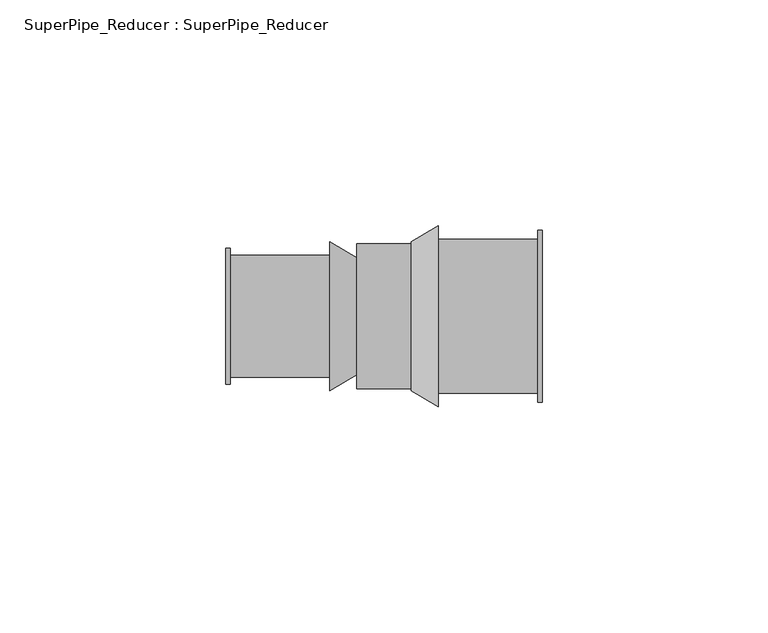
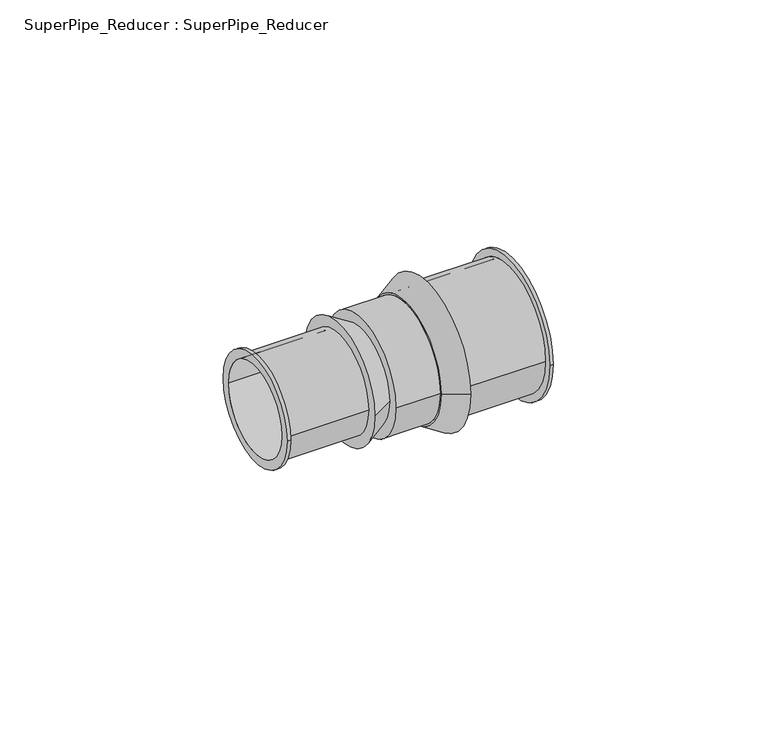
"""IFC4 building model written with IfcOpenShell, lengths in millimetres: pipe fitting geometry, SuperPipe_Reducer : SuperPipe_Reducer."""

import ifcopenshell
import ifcopenshell.guid

model = None  # the IFC model being written
_history = None  # IfcOwnerHistory: only IFC2X3 demands one
_inside = {}  # id of a spatial element -> (the spatial element, [elements in it])
_under = {}  # id of a project, library or spatial element -> (it, [spatial elements below it])
_declared = {}  # id of a project -> (the project, [libraries it declares])
_typed = {}  # id of a type object -> (the type object, [elements of that type])
_made_of = {}  # id of a material, layer set ... -> (it, [elements and type objects made of it])


def new_model(schema):
    """Start an empty IFC model of exactly this schema.

    Asked for "IFC4X3", IfcOpenShell would pick the latest addendum, in which some entities
    have other attributes; the version numbers below select the first issue.
    IFC2X3 requires an IfcOwnerHistory on every rooted entity: one is made here for all.
    """
    global model, _history
    if schema == "IFC4X3":
        model = ifcopenshell.file(schema_version=(4, 3, 0, 0))
    else:
        model = ifcopenshell.file(schema=schema)
    _inside.clear()
    _under.clear()
    _declared.clear()
    _typed.clear()
    _made_of.clear()
    _history = None
    if model.schema == "IFC2X3":
        org = make("IfcOrganization", Name="unknown")
        user = make(
            "IfcPersonAndOrganization",
            ThePerson=make("IfcPerson", FamilyName="unknown"),
            TheOrganization=org,
        )
        app = make(
            "IfcApplication",
            ApplicationDeveloper=org,
            Version="unknown",
            ApplicationFullName="unknown",
            ApplicationIdentifier="unknown",
        )
        _history = make(
            "IfcOwnerHistory",
            OwningUser=user,
            OwningApplication=app,
            ChangeAction="ADDED",
            CreationDate=0,
        )
    return model


def make(cls, **values):
    """One entity of the class cls with the attributes given. An attribute that is None is left unset."""
    return model.create_entity(
        cls, **{name: value for name, value in values.items() if value is not None}
    )


def rooted(cls, **values):
    """An entity with a GlobalId (a new one), such as an element, a storey or a relation."""
    return make(cls, GlobalId=ifcopenshell.guid.new(), OwnerHistory=_history, **values)


def si_unit(unit_type, name, prefix=None):
    """IfcSIUnit, for example si_unit("LENGTHUNIT", "METRE", prefix="MILLI")."""
    return make("IfcSIUnit", UnitType=unit_type, Prefix=prefix, Name=name)


def assignment(units):
    """IfcUnitAssignment: the units of a project."""
    return None if units is None else make("IfcUnitAssignment", Units=units)


def point(xyz):
    """IfcCartesianPoint."""
    return None if xyz is None else make("IfcCartesianPoint", Coordinates=xyz)


def direction(xyz):
    """IfcDirection."""
    return None if xyz is None else make("IfcDirection", DirectionRatios=xyz)


def frame(location, z_axis=None, x_axis=None):
    """IfcAxis2Placement3D, a coordinate frame: its origin and axes. An axis left out is left unset."""
    return make(
        "IfcAxis2Placement3D",
        Location=point(location),
        Axis=direction(z_axis),
        RefDirection=direction(x_axis),
    )


def frame_2d(location, x_axis=None):
    """IfcAxis2Placement2D, a coordinate frame in the plane: its origin and x axis."""
    return make(
        "IfcAxis2Placement2D", Location=point(location), RefDirection=direction(x_axis)
    )


def origin():
    """The frame at (0, 0, 0) with its axes left unset."""
    return frame((0.0, 0.0, 0.0))


def origin_2d():
    """The frame at (0, 0) in the plane with its x axis left unset."""
    return frame_2d((0.0, 0.0))


def place(relative_to, where):
    """IfcLocalPlacement: puts the frame where relative to a parent placement (None: the world)."""
    return make(
        "IfcLocalPlacement", PlacementRelTo=relative_to, RelativePlacement=where
    )


def context(
    kind, dimensions, precision=None, world=None, true_north=None, identifier=None
):
    """IfcGeometricRepresentationContext, for example the 3D "Model" context."""
    return make(
        "IfcGeometricRepresentationContext",
        ContextIdentifier=identifier,
        ContextType=kind,
        CoordinateSpaceDimension=dimensions,
        Precision=precision,
        WorldCoordinateSystem=world,
        TrueNorth=true_north,
    )


def project(units=None, contexts=None):
    """IfcProject with its units and contexts."""
    return rooted(
        "IfcProject",
        Name="project",
        RepresentationContexts=contexts,
        UnitsInContext=assignment(units),
    )


def spatial(cls, under=None, at=None, **own):
    """A site, building, storey or space (cls), placed at a placement, below another one or the project."""
    s = rooted(cls, ObjectPlacement=at, **own)
    if under is not None:
        _under.setdefault(under.id(), (under, []))[1].append(s)
    return s


def polyline(points):
    """IfcPolyline through the points."""
    return make("IfcPolyline", Points=[point(p) for p in points])


def circle_curve(where, radius):
    """IfcCircle in the frame where."""
    return make("IfcCircle", Position=where, Radius=radius)


def trimmed(basis, trim1, trim2, sense, master):
    """IfcTrimmedCurve: the piece of a basis curve between two trims."""
    return make(
        "IfcTrimmedCurve",
        BasisCurve=basis,
        Trim1=trim1,
        Trim2=trim2,
        SenseAgreement=sense,
        MasterRepresentation=master,
    )


def segment(curve, same_sense, transition):
    """IfcCompositeCurveSegment."""
    return make(
        "IfcCompositeCurveSegment",
        Transition=transition,
        SameSense=same_sense,
        ParentCurve=curve,
    )


def composite_curve(segments, self_intersect=None):
    """IfcCompositeCurve: segments joined end to end."""
    return make("IfcCompositeCurve", Segments=segments, SelfIntersect=self_intersect)


def outline(outer, holes=None, kind="AREA"):
    """IfcArbitraryClosedProfileDef: a profile drawn as a closed curve; with holes, ...WithVoids."""
    if holes is None:
        return make("IfcArbitraryClosedProfileDef", ProfileType=kind, OuterCurve=outer)
    return make(
        "IfcArbitraryProfileDefWithVoids",
        ProfileType=kind,
        OuterCurve=outer,
        InnerCurves=holes,
    )


def extrude(swept, where, along, depth):
    """IfcExtrudedAreaSolid: the profile swept, set in the frame where, extruded along a direction by depth."""
    return make(
        "IfcExtrudedAreaSolid",
        SweptArea=swept,
        Position=where,
        ExtrudedDirection=direction(along),
        Depth=depth,
    )


def shape(context_of_items, identifier, shape_type, items):
    """IfcShapeRepresentation: the items that make up one representation, for example the "Body"."""
    return make(
        "IfcShapeRepresentation",
        ContextOfItems=context_of_items,
        RepresentationIdentifier=identifier,
        RepresentationType=shape_type,
        Items=items,
    )


def source(mapping_origin, context_of_items, identifier, shape_type, items):
    """IfcRepresentationMap: a shape defined once, which mapped items show again and again."""
    return make(
        "IfcRepresentationMap",
        MappingOrigin=mapping_origin,
        MappedRepresentation=shape(context_of_items, identifier, shape_type, items),
    )


def transform(
    local_origin,
    x_axis=None,
    y_axis=None,
    z_axis=None,
    scale=None,
    scale2=None,
    scale3=None,
    uniform=True,
):
    """IfcCartesianTransformationOperator3D, or its non-uniform kind. x_axis, y_axis, z_axis: its Axis1, 2, 3."""
    if uniform:
        return make(
            "IfcCartesianTransformationOperator3D",
            Axis1=direction(x_axis),
            Axis2=direction(y_axis),
            LocalOrigin=point(local_origin),
            Scale=scale,
            Axis3=direction(z_axis),
        )
    return make(
        "IfcCartesianTransformationOperator3DnonUniform",
        Axis1=direction(x_axis),
        Axis2=direction(y_axis),
        LocalOrigin=point(local_origin),
        Scale=scale,
        Axis3=direction(z_axis),
        Scale2=scale2,
        Scale3=scale3,
    )


def mapped(mapping_source, mapping_target):
    """IfcMappedItem: shows the shape of a source again, moved by a transform."""
    return make(
        "IfcMappedItem", MappingSource=mapping_source, MappingTarget=mapping_target
    )


def made_of(thing, what):
    """Note that an element or type object is made of a material, layer set ...; save() writes the relation."""
    if what is not None:
        _made_of.setdefault(what.id(), (what, []))[1].append(thing)
    return thing


def element(
    cls,
    number,
    at=None,
    inside=None,
    cuts=None,
    type_object=None,
    material=None,
    context=None,
    identifier="Body",
    shape_type=None,
    held_by="IfcProductDefinitionShape",
    body=None,
    shapes=None,
    **own,
):
    """One element of the class cls, such as IfcWall. Its Tag is "e" and its number.

    at: its placement. inside: the storey or other place that contains it. cuts: it is an
    opening in that element (IfcRelVoidsElement). A single representation is given by context,
    identifier, shape_type and body (its items); several are given by shapes. held_by: the class
    of the entity that holds the representations. save() writes the other relations.
    """
    e = rooted(cls, Tag="e%d" % number, ObjectPlacement=at, **own)
    if body is not None:
        shapes = [shape(context, identifier, shape_type, body)]
    if shapes is not None:
        e.Representation = make(held_by, Representations=shapes)
    if inside is not None:
        _inside.setdefault(inside.id(), (inside, []))[1].append(e)
    if cuts is not None:
        rooted(
            "IfcRelVoidsElement", RelatingBuildingElement=cuts, RelatedOpeningElement=e
        )
    if type_object is not None:
        _typed.setdefault(type_object.id(), (type_object, []))[1].append(e)
    return made_of(e, material)


def aggregate(whole, parts):
    """IfcRelAggregates: a whole, such as a stair, and the parts it consists of."""
    return rooted("IfcRelAggregates", RelatingObject=whole, RelatedObjects=parts)


def save(model, path):
    """Write the relations noted so far, then the file.

    IfcRelAggregates (storeys below a building ...), IfcRelContainedInSpatialStructure (elements
    in a storey), IfcRelDefinesByType, IfcRelAssociatesMaterial and IfcRelDeclares: one each for
    every whole, place, type object, material and project.
    """
    for whole, parts in _under.values():
        aggregate(whole, parts)
    for where, things in _inside.values():
        rooted(
            "IfcRelContainedInSpatialStructure",
            RelatedElements=things,
            RelatingStructure=where,
        )
    for kind, things in _typed.values():
        rooted("IfcRelDefinesByType", RelatedObjects=things, RelatingType=kind)
    for what, things in _made_of.values():
        rooted("IfcRelAssociatesMaterial", RelatedObjects=things, RelatingMaterial=what)
    for by, libraries in _declared.values():
        rooted("IfcRelDeclares", RelatingContext=by, RelatedDefinitions=libraries)
    model.write(path)


def plane_surface(at):
    """IfcPlane: the flat surface through the origin of the frame at, square to its z axis."""
    return make("IfcPlane", Position=at)


def cylinder_surface(at, radius):
    """IfcCylindricalSurface: all points at the distance radius from the z axis of the frame at."""
    return make("IfcCylindricalSurface", Position=at, Radius=radius)


def revolved_surface(curve, axis_point, axis_direction):
    """IfcSurfaceOfRevolution: the curve turned about the line through axis_point along axis_direction."""
    return make(
        "IfcSurfaceOfRevolution",
        SweptCurve=make("IfcArbitraryOpenProfileDef", ProfileType="CURVE", Curve=curve),
        AxisPosition=make("IfcAxis1Placement", Location=point(axis_point), Axis=direction(axis_direction)),
    )


def advanced_brep(points, edges, surfaces, faces):
    """IfcAdvancedBrep: a solid bounded by faces that lie on surfaces and meet in shared edges.

    An edge is (start, end): straight between two places in points (the first is 0);
    or (start, end, curve); or (start, end, curve, False) where it runs against its curve.
    A face is (place in surfaces, loops), or (place, loops, False) where it looks against
    its surface's normal. A loop lists edges by number (the first is 1), with a minus sign
    where the edge is run from its end to its start. The first loop is the outer one.
    """
    corners = [point(p) for p in points]
    vertices = [make("IfcVertexPoint", VertexGeometry=c) for c in corners]
    made = []
    for start, end, *more in edges:
        made.append(
            make(
                "IfcEdgeCurve",
                EdgeStart=vertices[start],
                EdgeEnd=vertices[end],
                EdgeGeometry=more[0] if more else make("IfcPolyline", Points=[corners[start], corners[end]]),
                SameSense=more[1] if len(more) > 1 else True,
            )
        )
    hull = []
    for where, loops, *sense in faces:
        bounds = []
        for j, loop in enumerate(loops):
            ring = [make("IfcOrientedEdge", EdgeElement=made[abs(k) - 1], Orientation=k > 0) for k in loop]
            bounds.append(
                make(
                    "IfcFaceOuterBound" if j == 0 else "IfcFaceBound",
                    Bound=make("IfcEdgeLoop", EdgeList=ring),
                    Orientation=True,
                )
            )
        hull.append(make("IfcAdvancedFace", Bounds=bounds, FaceSurface=surfaces[where], SameSense=sense[0] if sense else True))
    return make("IfcAdvancedBrep", Outer=make("IfcClosedShell", CfsFaces=hull))


def superpipe_reducer_superpipe_reducer_a04450db(model_context):
    return source(origin(), model_context, "Body", "SolidModel", [
        advanced_brep(
        [(-35.0, -15.0, 0.0), (-35.0, 15.0, 0.0), (-35.0, -12.5, 0.0), (-35.0, 12.5, 0.0), (-12.0, -13.5, 0.0), (-12.0, 13.5, 0.0), (-12.0, -12.5, 0.0), (-12.0, 12.5, 0.0), (-34.0, -12.5, 0.0), (-34.0, 12.5, 0.0), (-34.0, 13.5, 0.0), (-34.0, -13.5, 0.0), (-34.0, -15.0, 0.0), (-34.0, 15.0, 0.0)],
        [
            (0, 1, circle_curve(frame((-35.0, 0.0, 0.0), z_axis=(-1.0, 0.0, 0.0), x_axis=(0.0, 1.0, 0.0)), 15.0)),
            (1, 0, circle_curve(frame((-35.0, 0.0, 0.0), z_axis=(-1.0, 0.0, 0.0), x_axis=(0.0, 1.0, 0.0)), 15.0)),
            (2, 3, circle_curve(frame((-35.0, 0.0, 0.0), z_axis=(1.0, 0.0, 0.0), x_axis=(0.0, 1.0, 0.0)), 12.5)),
            (3, 2, circle_curve(frame((-35.0, 0.0, 0.0), z_axis=(1.0, 0.0, 0.0), x_axis=(0.0, 1.0, 0.0)), 12.5)),
            (4, 5, circle_curve(frame((-12.0, 0.0, 0.0), z_axis=(1.0, 0.0, 0.0), x_axis=(0.0, 1.0, 0.0)), 13.5)),
            (5, 4, circle_curve(frame((-12.0, 0.0, 0.0), z_axis=(1.0, 0.0, 0.0), x_axis=(0.0, 1.0, 0.0)), 13.5)),
            (6, 7, circle_curve(frame((-12.0, 0.0, 0.0), z_axis=(-1.0, 0.0, 0.0), x_axis=(0.0, 1.0, 0.0)), 12.5)),
            (7, 6, circle_curve(frame((-12.0, 0.0, 0.0), z_axis=(-1.0, 0.0, 0.0), x_axis=(0.0, 1.0, 0.0)), 12.5)),
            (2, 8),
            (8, 6),
            (7, 9),
            (9, 3),
            (5, 10),
            (10, 11, circle_curve(frame((-34.0, 0.0, 0.0), z_axis=(1.0, 0.0, 0.0), x_axis=(0.0, 1.0, 0.0)), 13.5)),
            (11, 4),
            (11, 10, circle_curve(frame((-34.0, 0.0, 0.0), z_axis=(1.0, 0.0, 0.0), x_axis=(0.0, 1.0, 0.0)), 13.5)),
            (12, 13, circle_curve(frame((-34.0, 0.0, 0.0), z_axis=(1.0, 0.0, 0.0), x_axis=(0.0, 1.0, 0.0)), 15.0)),
            (13, 12, circle_curve(frame((-34.0, 0.0, 0.0), z_axis=(1.0, 0.0, 0.0), x_axis=(0.0, 1.0, 0.0)), 15.0)),
            (1, 13),
            (12, 0),
        ],
        [
            plane_surface(frame((-35.0, 0.0, 0.0), z_axis=(-1.0, 0.0, 0.0), x_axis=(0.0, 0.0, 1.0))),
            plane_surface(frame((-12.0, 0.0, 0.0), z_axis=(1.0, 0.0, 0.0), x_axis=(0.0, 0.0, 1.0))),
            revolved_surface(polyline([(-12.0, 12.5, 0.0), (-35.0, 12.5, 0.0)]), (-35.0, 0.0, 0.0), (1.0, 0.0, 0.0)),
            cylinder_surface(frame((-35.0, 0.0, 0.0), z_axis=(-1.0, 0.0, 0.0), x_axis=(0.0, 1.0, 0.0)), 13.5),
            plane_surface(frame((-34.0, 0.0, 0.0), z_axis=(1.0, 0.0, 0.0), x_axis=(0.0, 0.0, 1.0))),
            cylinder_surface(frame((-35.0, 0.0, 0.0), z_axis=(-1.0, 0.0, 0.0), x_axis=(0.0, 1.0, 0.0)), 15.0),
        ],
        [
            (0, [[1, 2], [3, 4]]),
            (1, [[5, 6], [7, 8]]),
            (2, [[-3, 9, 10, -8, 11, 12]]),
            (2, [[-4, -12, -11, -7, -10, -9]]),
            (3, [[-6, 13, 14, 15]]),
            (3, [[-5, -15, 16, -13]]),
            (4, [[17, 18], [-14, -16]]),
            (5, [[-2, 19, -17, 20]]),
            (5, [[-1, -20, -18, -19]]),
        ],
    ),
        advanced_brep(
        [(-6.0, -13.0, 0.0), (-6.0, 13.0, 0.0), (-6.0, -12.5, 0.0), (-6.0, 12.5, 0.0), (-12.0, -16.5, 0.0), (-12.0, 16.5, 0.0), (-12.0, 12.5, 0.0), (-12.0, -12.5, 0.0)],
        [
            (0, 1, circle_curve(frame((-6.0, 0.0, 0.0), z_axis=(1.0, 0.0, 0.0), x_axis=(0.0, -1.0, 0.0)), 13.0)),
            (1, 0, circle_curve(frame((-6.0, 0.0, 0.0), z_axis=(1.0, 0.0, 0.0), x_axis=(0.0, 1.0, 0.0)), 13.0)),
            (2, 3, circle_curve(frame((-6.0, 0.0, 0.0), z_axis=(-1.0, 0.0, 0.0), x_axis=(0.0, 1.0, 0.0)), 12.5)),
            (3, 2, circle_curve(frame((-6.0, 0.0, 0.0), z_axis=(-1.0, 0.0, 0.0), x_axis=(0.0, 1.0, 0.0)), 12.5)),
            (4, 5, circle_curve(frame((-12.0, 0.0, 0.0), z_axis=(-1.0, 0.0, 0.0), x_axis=(0.0, 1.0, 0.0)), 16.5)),
            (5, 4, circle_curve(frame((-12.0, 0.0, 0.0), z_axis=(-1.0, 0.0, 0.0), x_axis=(0.0, -1.0, 0.0)), 16.5)),
            (6, 7, circle_curve(frame((-12.0, 0.0, 0.0), z_axis=(1.0, 0.0, 0.0), x_axis=(0.0, 1.0, 0.0)), 12.5)),
            (7, 6, circle_curve(frame((-12.0, 0.0, 0.0), z_axis=(1.0, 0.0, 0.0), x_axis=(0.0, 1.0, 0.0)), 12.5)),
            (0, 4),
            (5, 1),
            (6, 3),
            (2, 7),
        ],
        [
            plane_surface(frame((-6.0, 0.0, 0.0), z_axis=(1.0, 0.0, 0.0), x_axis=(0.0, 0.0, -1.0))),
            plane_surface(frame((-12.0, 0.0, 0.0), z_axis=(-1.0, 0.0, 0.0), x_axis=(0.0, 0.0, -1.0))),
            revolved_surface(polyline([(-6.0, -13.000000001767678, 0.0), (-12.0, -16.5, 0.0)]), (16.2857143, 0.0, 0.0), (-1.0, 0.0, 0.0)),
            revolved_surface(polyline([(-6.0, 13.000000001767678, 0.0), (-12.0, 16.5, 0.0)]), (16.2857143, 0.0, 0.0), (-1.0, 0.0, 0.0)),
            revolved_surface(polyline([(-12.0, 12.5, 0.0), (-6.0, 12.5, 0.0)]), (-12.0, 0.0, 0.0), (-1.0, 0.0, 0.0)),
        ],
        [
            (0, [[1, 2], [3, 4]]),
            (1, [[5, 6], [7, 8]]),
            (2, [[-1, 9, -6, 10]]),
            (3, [[-2, -10, -5, -9]]),
            (4, [[11, -3, 12, -7]]),
            (4, [[-11, -8, -12, -4]]),
        ],
    ),
        advanced_brep(
        [(12.0, -20.0, 0.0), (12.0, 20.0, 0.0), (12.0, -16.0, 0.0), (12.0, 16.0, 0.0), (6.0, -16.5, 0.0), (6.0, 16.5, 0.0), (6.0, 16.0, 0.0), (6.0, -16.0, 0.0)],
        [
            (0, 1, circle_curve(frame((12.0, 0.0, 0.0), z_axis=(1.0, 0.0, 0.0), x_axis=(0.0, -1.0, 0.0)), 20.0)),
            (1, 0, circle_curve(frame((12.0, 0.0, 0.0), z_axis=(1.0, 0.0, 0.0), x_axis=(0.0, 1.0, 0.0)), 20.0)),
            (2, 3, circle_curve(frame((12.0, 0.0, 0.0), z_axis=(-1.0, 0.0, 0.0), x_axis=(0.0, 1.0, 0.0)), 16.0)),
            (3, 2, circle_curve(frame((12.0, 0.0, 0.0), z_axis=(-1.0, 0.0, 0.0), x_axis=(0.0, 1.0, 0.0)), 16.0)),
            (4, 5, circle_curve(frame((6.0, 0.0, 0.0), z_axis=(-1.0, 0.0, 0.0), x_axis=(0.0, 1.0, 0.0)), 16.5)),
            (5, 4, circle_curve(frame((6.0, 0.0, 0.0), z_axis=(-1.0, 0.0, 0.0), x_axis=(0.0, -1.0, 0.0)), 16.5)),
            (6, 7, circle_curve(frame((6.0, 0.0, 0.0), z_axis=(1.0, 0.0, 0.0), x_axis=(0.0, 1.0, 0.0)), 16.0)),
            (7, 6, circle_curve(frame((6.0, 0.0, 0.0), z_axis=(1.0, 0.0, 0.0), x_axis=(0.0, 1.0, 0.0)), 16.0)),
            (0, 4),
            (5, 1),
            (6, 3),
            (2, 7),
        ],
        [
            plane_surface(frame((12.0, 0.0, 0.0), z_axis=(1.0, 0.0, 0.0), x_axis=(0.0, 0.0, -1.0))),
            plane_surface(frame((6.0, 0.0, 0.0), z_axis=(-1.0, 0.0, 0.0), x_axis=(0.0, 0.0, -1.0))),
            revolved_surface(polyline([(6.0, 16.500000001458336, 0.0), (11.999999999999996, 20.0, 0.0)]), (-22.2857143, 0.0, 0.0), (1.0, 0.0, 0.0)),
            revolved_surface(polyline([(6.0, -16.500000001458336, 0.0), (11.999999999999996, -20.0, 0.0)]), (-22.2857143, 0.0, 0.0), (1.0, 0.0, 0.0)),
            revolved_surface(polyline([(6.0, 16.0, 0.0), (12.0, 16.0, 0.0)]), (6.0, 0.0, 0.0), (-1.0, 0.0, 0.0)),
        ],
        [
            (0, [[1, 2], [3, 4]]),
            (1, [[5, 6], [7, 8]]),
            (2, [[-1, 9, -6, 10]]),
            (3, [[-2, -10, -5, -9]]),
            (4, [[11, -3, 12, -7]]),
            (4, [[-11, -8, -12, -4]]),
        ],
    ),
        advanced_brep(
        [(12.0, -17.0, 0.0), (12.0, 17.0, 0.0), (12.0, -16.0, 0.0), (12.0, 16.0, 0.0), (35.0, -19.0, 0.0), (35.0, 19.0, 0.0), (35.0, -16.0, 0.0), (35.0, 16.0, 0.0), (34.0, -17.0, 0.0), (34.0, 17.0, 0.0), (34.0, -16.0, 0.0), (34.0, 16.0, 0.0), (34.0, -19.0, 0.0), (34.0, 19.0, 0.0)],
        [
            (0, 1, circle_curve(frame((12.0, 0.0, 0.0), z_axis=(-1.0, 0.0, 0.0), x_axis=(0.0, 1.0, 0.0)), 17.0)),
            (1, 0, circle_curve(frame((12.0, 0.0, 0.0), z_axis=(-1.0, 0.0, 0.0), x_axis=(0.0, 1.0, 0.0)), 17.0)),
            (2, 3, circle_curve(frame((12.0, 0.0, 0.0), z_axis=(1.0, 0.0, 0.0), x_axis=(0.0, 1.0, 0.0)), 16.0)),
            (3, 2, circle_curve(frame((12.0, 0.0, 0.0), z_axis=(1.0, 0.0, 0.0), x_axis=(0.0, 1.0, 0.0)), 16.0)),
            (4, 5, circle_curve(frame((35.0, 0.0, 0.0), z_axis=(1.0, 0.0, 0.0), x_axis=(0.0, 1.0, 0.0)), 19.0)),
            (5, 4, circle_curve(frame((35.0, 0.0, 0.0), z_axis=(1.0, 0.0, 0.0), x_axis=(0.0, 1.0, 0.0)), 19.0)),
            (6, 7, circle_curve(frame((35.0, 0.0, 0.0), z_axis=(-1.0, 0.0, 0.0), x_axis=(0.0, 1.0, 0.0)), 16.0)),
            (7, 6, circle_curve(frame((35.0, 0.0, 0.0), z_axis=(-1.0, 0.0, 0.0), x_axis=(0.0, 1.0, 0.0)), 16.0)),
            (0, 8),
            (8, 9, circle_curve(frame((34.0, 0.0, 0.0), z_axis=(-1.0, 0.0, 0.0), x_axis=(0.0, 1.0, 0.0)), 17.0)),
            (9, 1),
            (9, 8, circle_curve(frame((34.0, 0.0, 0.0), z_axis=(-1.0, 0.0, 0.0), x_axis=(0.0, 1.0, 0.0)), 17.0)),
            (2, 10),
            (10, 6),
            (7, 11),
            (11, 3),
            (12, 13, circle_curve(frame((34.0, 0.0, 0.0), z_axis=(-1.0, 0.0, 0.0), x_axis=(0.0, 1.0, 0.0)), 19.0)),
            (13, 12, circle_curve(frame((34.0, 0.0, 0.0), z_axis=(-1.0, 0.0, 0.0), x_axis=(0.0, 1.0, 0.0)), 19.0)),
            (13, 5),
            (4, 12),
        ],
        [
            plane_surface(frame((12.0, 0.0, 0.0), z_axis=(-1.0, 0.0, 0.0), x_axis=(0.0, 0.0, 1.0))),
            plane_surface(frame((35.0, 0.0, 0.0), z_axis=(1.0, 0.0, 0.0), x_axis=(0.0, 0.0, 1.0))),
            cylinder_surface(frame((12.0, 0.0, 0.0), z_axis=(-1.0, 0.0, 0.0), x_axis=(0.0, 1.0, 0.0)), 17.0),
            revolved_surface(polyline([(35.0, 16.0, 0.0), (12.0, 16.0, 0.0)]), (12.0, 0.0, 0.0), (1.0, 0.0, 0.0)),
            plane_surface(frame((34.0, 0.0, 0.0), z_axis=(-1.0, 0.0, 0.0), x_axis=(0.0, 0.0, 1.0))),
            cylinder_surface(frame((34.0, 0.0, 0.0), z_axis=(-1.0, 0.0, 0.0), x_axis=(0.0, 1.0, 0.0)), 19.0),
        ],
        [
            (0, [[1, 2], [3, 4]]),
            (1, [[5, 6], [7, 8]]),
            (2, [[-1, 9, 10, 11]]),
            (2, [[-2, -11, 12, -9]]),
            (3, [[-3, 13, 14, -8, 15, 16]]),
            (3, [[-4, -16, -15, -7, -14, -13]]),
            (4, [[17, 18], [-10, -12]]),
            (5, [[-18, 19, -5, 20]]),
            (5, [[-17, -20, -6, -19]]),
        ],
    ),
        extrude(outline(composite_curve([segment(trimmed(circle_curve(origin_2d(), 16.0), [point((-16.0, 0.0))], [point((16.0, 0.0))], False, "CARTESIAN"), True, "CONTINUOUS"), segment(trimmed(circle_curve(origin_2d(), 16.0), [point((16.0, 0.0))], [point((-16.0, 0.0))], False, "CARTESIAN"), True, "CONTINUOUS")], self_intersect=False)), frame((-6.0, 0.0, 0.0), z_axis=(1.0, 0.0, 0.0), x_axis=(0.0, 1.0, 0.0)), (0.0, 0.0, 1.0), 12.0),
    ])


if __name__ == "__main__":
    model = new_model("IFC4")
    model_context = context("Model", 3, world=origin())
    ifc_project = project(units=[si_unit("LENGTHUNIT", "METRE", prefix="MILLI")], contexts=[model_context])
    site = spatial("IfcSite", under=ifc_project)
    building = spatial("IfcBuilding", under=site)
    placement = place(None, origin())
    superpipe_reducer_superpipe_reducer_shape = superpipe_reducer_superpipe_reducer_a04450db(model_context)
    element("IfcPipeFitting", 1, ObjectType="SuperPipe_Reducer : SuperPipe_Reducer", at=placement, inside=building, context=model_context, shape_type="MappedRepresentation", body=[
        mapped(superpipe_reducer_superpipe_reducer_shape, transform((0.0, 0.0, 0.0), x_axis=(1.0, 0.0, 0.0), y_axis=(0.0, 1.0, 0.0), z_axis=(0.0, 0.0, 1.0))),
    ])
    save(model, "model.ifc")
